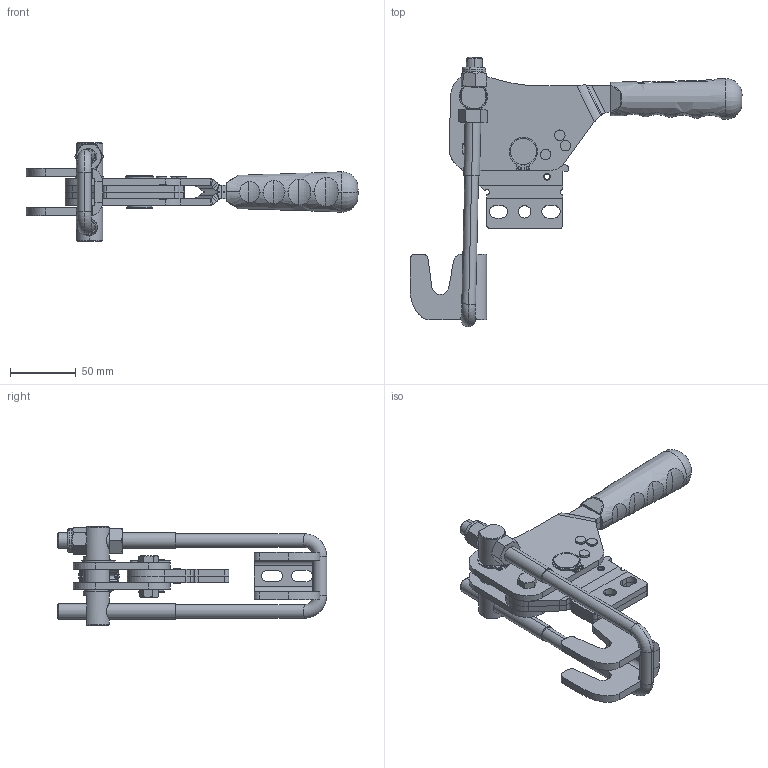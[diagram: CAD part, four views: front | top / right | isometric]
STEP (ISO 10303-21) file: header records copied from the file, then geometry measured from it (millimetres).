
FILE_DESCRIPTION (( 'STEP AP203' ), '1' );
FILE_NAME ('13212_D.STEP', '2022-11-30T12:07:00', ( '' ), ( '' ), 'SwSTEP 2.0', 'SolidWorks 2023', '' );
FILE_SCHEMA (( 'CONFIG_CONTROL_DESIGN' ));
Length unit declared in the file: millimetre
Products named in the file (18): Karşılık kancası m 12; 07210-12; 1391_Kanca mili_Varsayılan; M8 Somun_Varsayılan; C100_T_10x20(YENİ_TUTAMAK_10x20)_Varsayılan; 5-12-1330659; 13210 Gövde; Aynalama13210 Gövde; circlips_o20-uni_7435; 13212_D; Aynalama13210 H kolu; mandal 2; M12_U_Kanca_Varsayılan; autolock_nut_h_fr_nf_e_25-409_m12_6_1; cap 20 malzeme ; hexagon_bolt_jis_b_1180_c_m8_x25_Varsayılan; 13210 H kolu; Pim_5x22_Varsayılan
Assembly tree (19 placements, depth 2):
  13212_D
    13210 Gövde
    13210 H kolu
    Aynalama13210 Gövde
    1391_Kanca mili_Varsayılan
    Pim_5x22_Varsayılan  x3
    M8 Somun_Varsayılan
    M12_U_Kanca_Varsayılan
    cap 20 malzeme 
    Karşılık kancası m 12
    Aynalama13210 H kolu
    07210-12
    5-12-1330659
    autolock_nut_h_fr_nf_e_25-409_m12_6_1
    circlips_o20-uni_7435  x2
    hexagon_bolt_jis_b_1180_c_m8_x25_Varsayılan
    C100_T_10x20(YENİ_TUTAMAK_10x20)_Varsayılan
  mandal 2
Bounding box: 252.9 x 205.31 x 75 mm (x, y, z)
Volume: 267533.2 mm3; surface area: 119653.8 mm2
Topology: 19 solids, 19 shells, 756 faces, 1899 edges, 1207 vertices
Faces by surface type: plane 397, cylinder 243, cone 54, torus 36, bspline 26
Entity records: 23629 total; most frequent: CARTESIAN_POINT 6626, ORIENTED_EDGE 3148, DIRECTION 3104, EDGE_CURVE 1574, AXIS2_PLACEMENT_3D 1122, VERTEX_POINT 1001, VECTOR 860, LINE 860
